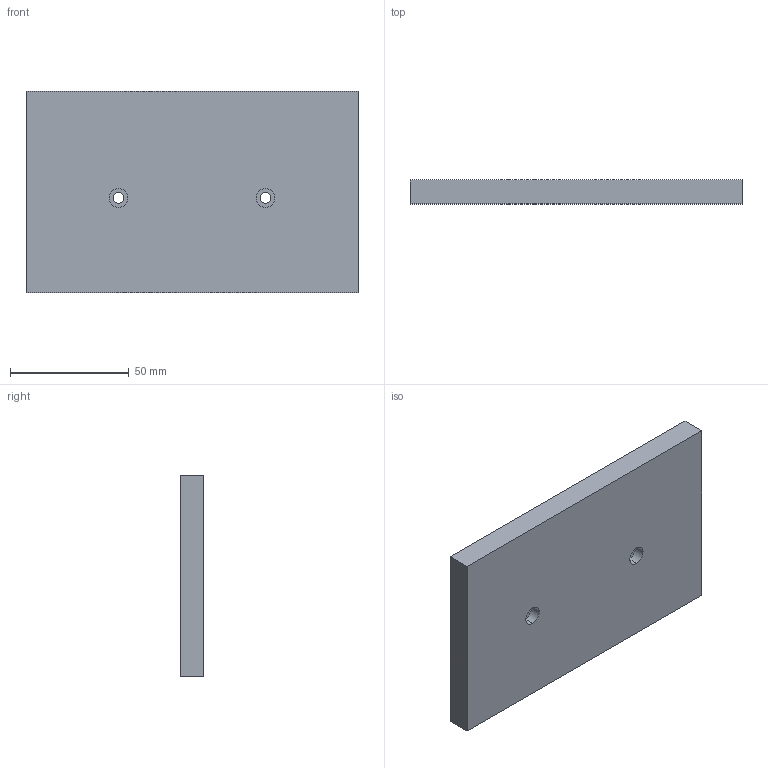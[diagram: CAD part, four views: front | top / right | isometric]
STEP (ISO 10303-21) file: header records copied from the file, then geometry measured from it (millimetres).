
FILE_DESCRIPTION (( 'STEP AP214' ), '1' );
FILE_NAME ('②ベースプレート.STEP', '2024-06-25T08:02:05', ( '' ), ( '' ), 'SwSTEP 2.0', 'SolidWorks 2023', '' );
FILE_SCHEMA (( 'AUTOMOTIVE_DESIGN' ));
Length unit declared in the file: millimetre
Products named in the file (1): ②ベースプレート
Bounding box: 140 x 10 x 85 mm (x, y, z)
Volume: 118297.7 mm3; surface area: 28714.7 mm2
Topology: 1 solids, 1 shells, 24 faces, 56 edges, 34 vertices
Faces by surface type: cylinder 12, plane 8, cone 4
Entity records: 695 total; most frequent: DIRECTION 126, CARTESIAN_POINT 111, ORIENTED_EDGE 104, EDGE_CURVE 52, AXIS2_PLACEMENT_3D 49, VERTEX_POINT 34, EDGE_LOOP 32, LINE 28
